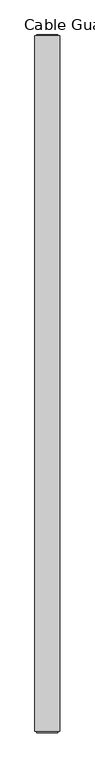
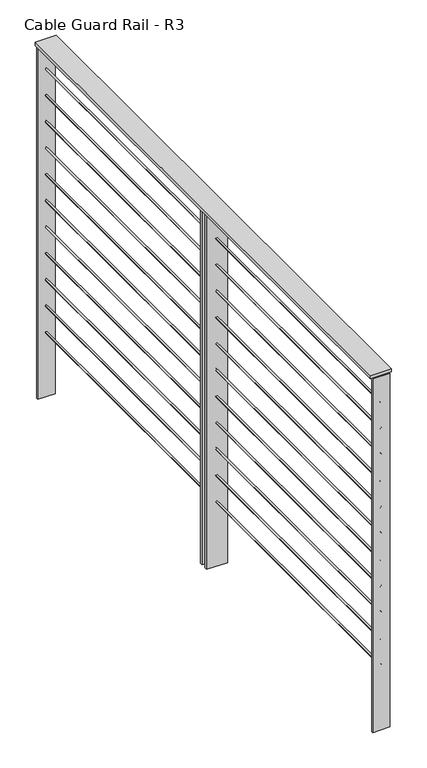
"""IFC4 building model written with IfcOpenShell, lengths in millimetres: railing geometry, Cable Guard Rail - R3."""

from ifc_helpers import new_model, si_unit, point, frame, frame_2d, origin, place, context, project, spatial, polyline, circle_curve, trimmed, segment, composite_curve, outline, extrude, source, transform, mapped, element, save


def cable_guard_rail_r3_615c44c9(model_context):
    return source(origin(), model_context, "Body", "SweptSolid", [
        extrude(outline(polyline([(29194.1728313, 228377.5703252), (29117.9728313, 228377.5703252), (29117.9728313, 230498.4703252), (29194.1728313, 230498.4703252), (29194.1728313, 228377.5703252)])), frame((0.0, 0.0, 293590.1333333), z_axis=(0.0, 0.0, 1.0), x_axis=(1.0, 0.0, 0.0)), (0.0, 0.0, 1.0), 12.7),
        extrude(outline(composite_curve([segment(trimmed(circle_curve(frame_2d((293488.5333333, 29156.0728313)), 3.175), [point((293488.5333333, 29159.2478313))], [point((293488.5333333, 29152.8978313))], False, "CARTESIAN"), True, "CONTINUOUS"), segment(trimmed(circle_curve(frame_2d((293488.5333333, 29156.0728313)), 3.175), [point((293488.5333333, 29152.8978313))], [point((293488.5333333, 29159.2478313))], False, "CARTESIAN"), True, "CONTINUOUS")], self_intersect=False)), frame((0.0, 228377.5703252, 0.0), z_axis=(0.0, 1.0, 0.0), x_axis=(0.0, 0.0, 1.0)), (0.0, 0.0, 1.0), 2120.9),
        extrude(outline(composite_curve([segment(trimmed(circle_curve(frame_2d((293386.9333333, 29156.0728313)), 3.175), [point((293386.9333333, 29159.2478313))], [point((293386.9333333, 29152.8978313))], False, "CARTESIAN"), True, "CONTINUOUS"), segment(trimmed(circle_curve(frame_2d((293386.9333333, 29156.0728313)), 3.175), [point((293386.9333333, 29152.8978313))], [point((293386.9333333, 29159.2478313))], False, "CARTESIAN"), True, "CONTINUOUS")], self_intersect=False)), frame((0.0, 228377.5703252, 0.0), z_axis=(0.0, 1.0, 0.0), x_axis=(0.0, 0.0, 1.0)), (0.0, 0.0, 1.0), 2120.9),
        extrude(outline(composite_curve([segment(trimmed(circle_curve(frame_2d((293285.3333333, 29156.0728313)), 3.175), [point((293285.3333333, 29159.2478313))], [point((293285.3333333, 29152.8978313))], False, "CARTESIAN"), True, "CONTINUOUS"), segment(trimmed(circle_curve(frame_2d((293285.3333333, 29156.0728313)), 3.175), [point((293285.3333333, 29152.8978313))], [point((293285.3333333, 29159.2478313))], False, "CARTESIAN"), True, "CONTINUOUS")], self_intersect=False)), frame((0.0, 228377.5703252, 0.0), z_axis=(0.0, 1.0, 0.0), x_axis=(0.0, 0.0, 1.0)), (0.0, 0.0, 1.0), 2120.9),
        extrude(outline(composite_curve([segment(trimmed(circle_curve(frame_2d((293183.7333333, 29156.0728313)), 3.175), [point((293183.7333333, 29159.2478313))], [point((293183.7333333, 29152.8978313))], False, "CARTESIAN"), True, "CONTINUOUS"), segment(trimmed(circle_curve(frame_2d((293183.7333333, 29156.0728313)), 3.175), [point((293183.7333333, 29152.8978313))], [point((293183.7333333, 29159.2478313))], False, "CARTESIAN"), True, "CONTINUOUS")], self_intersect=False)), frame((0.0, 228377.5703252, 0.0), z_axis=(0.0, 1.0, 0.0), x_axis=(0.0, 0.0, 1.0)), (0.0, 0.0, 1.0), 2120.9),
        extrude(outline(composite_curve([segment(trimmed(circle_curve(frame_2d((293082.1333333, 29156.0728313)), 3.175), [point((293082.1333333, 29159.2478313))], [point((293082.1333333, 29152.8978313))], False, "CARTESIAN"), True, "CONTINUOUS"), segment(trimmed(circle_curve(frame_2d((293082.1333333, 29156.0728313)), 3.175), [point((293082.1333333, 29152.8978313))], [point((293082.1333333, 29159.2478313))], False, "CARTESIAN"), True, "CONTINUOUS")], self_intersect=False)), frame((0.0, 228377.5703252, 0.0), z_axis=(0.0, 1.0, 0.0), x_axis=(0.0, 0.0, 1.0)), (0.0, 0.0, 1.0), 2120.9),
        extrude(outline(composite_curve([segment(trimmed(circle_curve(frame_2d((292980.5333333, 29156.0728313)), 3.175), [point((292980.5333333, 29159.2478313))], [point((292980.5333333, 29152.8978313))], False, "CARTESIAN"), True, "CONTINUOUS"), segment(trimmed(circle_curve(frame_2d((292980.5333333, 29156.0728313)), 3.175), [point((292980.5333333, 29152.8978313))], [point((292980.5333333, 29159.2478313))], False, "CARTESIAN"), True, "CONTINUOUS")], self_intersect=False)), frame((0.0, 228377.5703252, 0.0), z_axis=(0.0, 1.0, 0.0), x_axis=(0.0, 0.0, 1.0)), (0.0, 0.0, 1.0), 2120.9),
        extrude(outline(composite_curve([segment(trimmed(circle_curve(frame_2d((292878.9333333, 29156.0728313)), 3.175), [point((292878.9333333, 29159.2478313))], [point((292878.9333333, 29152.8978313))], False, "CARTESIAN"), True, "CONTINUOUS"), segment(trimmed(circle_curve(frame_2d((292878.9333333, 29156.0728313)), 3.175), [point((292878.9333333, 29152.8978313))], [point((292878.9333333, 29159.2478313))], False, "CARTESIAN"), True, "CONTINUOUS")], self_intersect=False)), frame((0.0, 228377.5703252, 0.0), z_axis=(0.0, 1.0, 0.0), x_axis=(0.0, 0.0, 1.0)), (0.0, 0.0, 1.0), 2120.9),
        extrude(outline(composite_curve([segment(trimmed(circle_curve(frame_2d((292777.3333333, 29156.0728313)), 3.175), [point((292777.3333333, 29159.2478313))], [point((292777.3333333, 29152.8978313))], False, "CARTESIAN"), True, "CONTINUOUS"), segment(trimmed(circle_curve(frame_2d((292777.3333333, 29156.0728313)), 3.175), [point((292777.3333333, 29152.8978313))], [point((292777.3333333, 29159.2478313))], False, "CARTESIAN"), True, "CONTINUOUS")], self_intersect=False)), frame((0.0, 228377.5703252, 0.0), z_axis=(0.0, 1.0, 0.0), x_axis=(0.0, 0.0, 1.0)), (0.0, 0.0, 1.0), 2120.9),
        extrude(outline(composite_curve([segment(trimmed(circle_curve(frame_2d((292675.7333333, 29156.0728313)), 3.175), [point((292675.7333333, 29159.2478313))], [point((292675.7333333, 29152.8978313))], False, "CARTESIAN"), True, "CONTINUOUS"), segment(trimmed(circle_curve(frame_2d((292675.7333333, 29156.0728313)), 3.175), [point((292675.7333333, 29152.8978313))], [point((292675.7333333, 29159.2478313))], False, "CARTESIAN"), True, "CONTINUOUS")], self_intersect=False)), frame((0.0, 228377.5703252, 0.0), z_axis=(0.0, 1.0, 0.0), x_axis=(0.0, 0.0, 1.0)), (0.0, 0.0, 1.0), 2120.9),
        extrude(outline(composite_curve([segment(trimmed(circle_curve(frame_2d((292574.1333333, 29156.0728313)), 3.175), [point((292574.1333333, 29159.2478313))], [point((292574.1333333, 29152.8978313))], False, "CARTESIAN"), True, "CONTINUOUS"), segment(trimmed(circle_curve(frame_2d((292574.1333333, 29156.0728313)), 3.175), [point((292574.1333333, 29152.8978313))], [point((292574.1333333, 29159.2478313))], False, "CARTESIAN"), True, "CONTINUOUS")], self_intersect=False)), frame((0.0, 228377.5703252, 0.0), z_axis=(0.0, 1.0, 0.0), x_axis=(0.0, 0.0, 1.0)), (0.0, 0.0, 1.0), 2120.9),
        extrude(outline(composite_curve([segment(trimmed(circle_curve(frame_2d((292472.5333333, 29156.0728313)), 3.175), [point((292472.5333333, 29159.2478313))], [point((292472.5333333, 29152.8978313))], False, "CARTESIAN"), True, "CONTINUOUS"), segment(trimmed(circle_curve(frame_2d((292472.5333333, 29156.0728313)), 3.175), [point((292472.5333333, 29152.8978313))], [point((292472.5333333, 29159.2478313))], False, "CARTESIAN"), True, "CONTINUOUS")], self_intersect=False)), frame((0.0, 228377.5703252, 0.0), z_axis=(0.0, 1.0, 0.0), x_axis=(0.0, 0.0, 1.0)), (0.0, 0.0, 1.0), 2120.9),
        extrude(outline(polyline([(29194.1728313, 229415.7953252), (29117.9728313, 229415.7953252), (29117.9728313, 229425.3203252), (29194.1728313, 229425.3203252), (29194.1728313, 229415.7953252)])), frame((0.0, 0.0, 292224.8833333), z_axis=(0.0, 0.0, 1.0), x_axis=(1.0, 0.0, 0.0)), (0.0, 0.0, 1.0), 1365.25),
        extrude(outline(polyline([(29194.1728313, 229444.3703252), (29117.9728313, 229444.3703252), (29117.9728313, 229453.8470898), (29194.1728313, 229453.8470898), (29194.1728313, 229444.3703252)])), frame((0.0, 0.0, 292224.8833333), z_axis=(0.0, 0.0, 1.0), x_axis=(1.0, 0.0, 0.0)), (0.0, 0.0, 1.0), 1365.25),
        extrude(outline(polyline([(29187.8228313, 230495.2953252), (29124.3228313, 230495.2953252), (29124.3228313, 230501.6453252), (29187.8228313, 230501.6453252), (29187.8228313, 230495.2953252)])), frame((0.0, 0.0, 292224.8833333), z_axis=(0.0, 0.0, 1.0), x_axis=(1.0, 0.0, 0.0)), (0.0, 0.0, 1.0), 1365.25),
        extrude(outline(polyline([(29187.8228313, 228374.3953252), (29124.3228313, 228374.3953252), (29124.3228313, 228380.7453252), (29187.8228313, 228380.7453252), (29187.8228313, 228374.3953252)])), frame((0.0, 0.0, 292224.8833333), z_axis=(0.0, 0.0, 1.0), x_axis=(1.0, 0.0, 0.0)), (0.0, 0.0, 1.0), 1365.25),
    ])


if __name__ == "__main__":
    model = new_model("IFC4")
    model_context = context("Model", 3, world=origin())
    ifc_project = project(units=[si_unit("LENGTHUNIT", "METRE", prefix="MILLI")], contexts=[model_context])
    site = spatial("IfcSite", under=ifc_project)
    building = spatial("IfcBuilding", under=site)
    placement = place(None, origin())
    cable_guard_rail_r3_shape = cable_guard_rail_r3_615c44c9(model_context)
    element("IfcRailing", 1, ObjectType="Cable Guard Rail - R3", at=placement, inside=building, context=model_context, shape_type="MappedRepresentation", body=[
        mapped(cable_guard_rail_r3_shape, transform((0.0, 0.0, 0.0), x_axis=(1.0, 0.0, 0.0), y_axis=(0.0, 1.0, 0.0), z_axis=(0.0, 0.0, 1.0))),
    ])
    save(model, "model.ifc")
